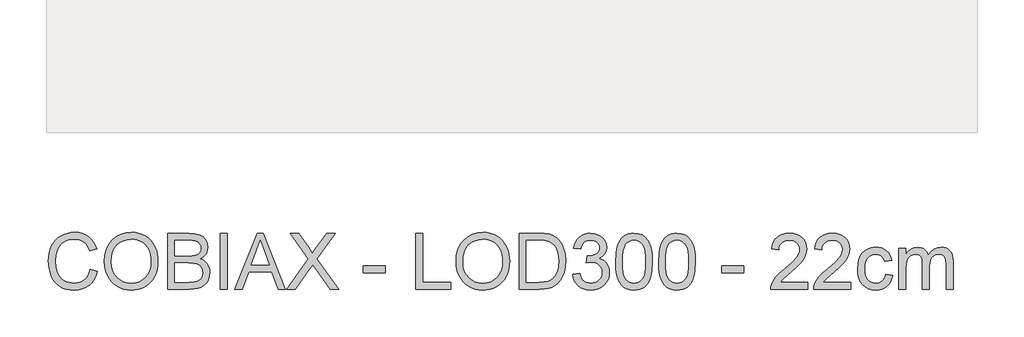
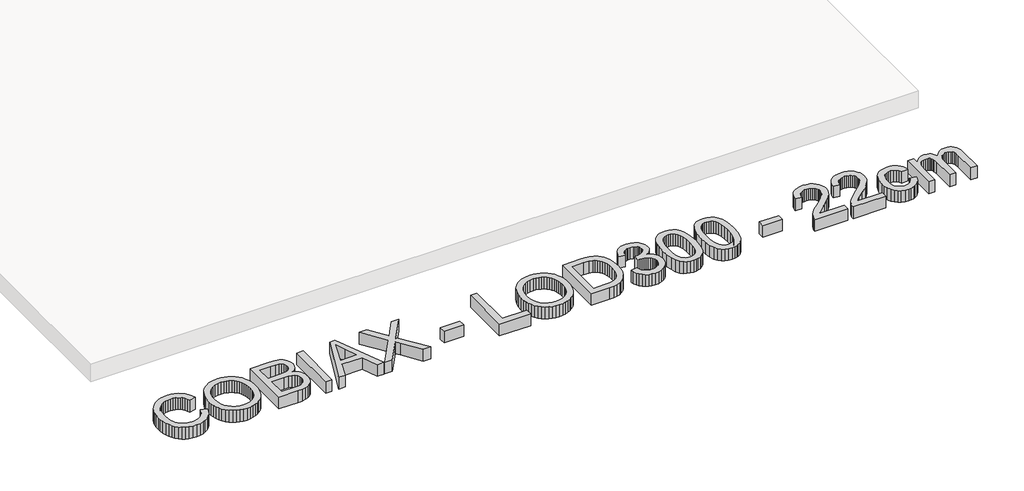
# One storey, part 6 of 18: 1 proxy.
"""IFC4 building model written with IfcOpenShell, lengths in millimetres."""

from ifc_helpers import new_model, si_unit, origin, origin_with_axes, place, context, project, spatial, polyline, outline, extrude, element, save

model = new_model("IFC4")

# Units and contexts
model_context = context("Model", 3, world=origin())
ifc_project = project(units=[si_unit("LENGTHUNIT", "METRE", prefix="MILLI")], contexts=[model_context])

# Site, building, storey
site = spatial("IfcSite", under=ifc_project)
building = spatial("IfcBuilding", under=site)
storey = spatial("IfcBuildingStorey", under=building, Name="COBIAX Slabs", Elevation=0.0)

# Proxy
placement = place(None, origin())
element("IfcBuildingElementProxy", 1, Name="600mm Arial", ObjectType="600mm Arial", at=placement, inside=storey, context=model_context, shape_type="SweptSolid", body=[
    extrude(outline(polyline([(-20201.7846047, -6620.9127725), (-20126.4423721, -6640.3369419), (-20141.35079, -6687.1913125), (-20161.2072206, -6728.13198), (-20186.0116642, -6763.1589445), (-20215.7641205, -6792.2722059), (-20249.7932051, -6815.1590645), (-20287.4275332, -6831.5068207), (-20328.6671048, -6841.3154744), (-20373.5119201, -6844.5850256), (-20419.4557827, -6842.1110192), (-20460.902288, -6834.6889999), (-20497.8514359, -6822.3189678), (-20530.3032264, -6805.0009229), (-20558.7037164, -6782.9923826), (-20583.4989629, -6756.5508642), (-20604.6889658, -6725.6763677), (-20622.2737252, -6690.3688932), (-20636.0830956, -6652.155151), (-20645.9469316, -6612.5618512), (-20651.8652332, -6571.588994), (-20653.8380004, -6529.2365793), (-20651.6077158, -6483.7939559), (-20644.916862, -6441.3495707), (-20633.765439, -6401.9034238), (-20618.1534469, -6365.4555151), (-20598.4303734, -6332.6082514), (-20574.9457065, -6303.9640396), (-20547.6994462, -6279.5228795), (-20516.6915926, -6259.2847713), (-20482.9752077, -6243.4152617), (-20447.6033539, -6232.0798977), (-20410.5760311, -6225.2786793), (-20371.8932393, -6223.0116065), (-20328.8004621, -6225.9454655), (-20289.2853373, -6234.7470422), (-20253.3478649, -6249.4163368), (-20220.9880449, -6269.9533491), (-20192.7393062, -6295.8154534), (-20169.1350776, -6326.4600236), (-20150.1753593, -6361.8870597), (-20135.8601512, -6402.0965618), (-20211.2023838, -6420.0492032), (-20223.0665781, -6390.420907), (-20237.3220054, -6365.1060272), (-20253.9686657, -6344.1045638), (-20273.006559, -6327.4165168), (-20294.5460498, -6314.7015953), (-20318.6975028, -6305.6195086), (-20345.4609179, -6300.1702565), (-20374.8362952, -6298.3538392), (-20408.6354535, -6300.3679931), (-20439.5467382, -6306.4104549), (-20467.5701492, -6316.4812245), (-20492.7056865, -6330.5803019), (-20514.6360519, -6348.0730908), (-20533.0439473, -6368.3249946), (-20547.9293725, -6391.3360134), (-20559.2923276, -6417.1061472), (-20573.6949077, -6472.2516583), (-20578.4957678, -6529.0894265), (-20572.8119909, -6598.6927), (-20565.7072699, -6629.9626696), (-20555.7606605, -6658.8781944), (-20542.8112142, -6684.8644589), (-20526.6979829, -6707.3466473), (-20507.4209663, -6726.3247597), (-20484.9801646, -6741.7987961), (-20460.4654281, -6753.8055448), (-20434.9666074, -6762.3817938), (-20408.4837022, -6767.5275432), (-20381.0167128, -6769.242793), (-20348.2614196, -6766.9067423), (-20318.1272857, -6759.8985903), (-20290.614311, -6748.218337), (-20265.7224955, -6731.8659823), (-20244.0404504, -6710.9151027), (-20226.1567869, -6685.4392745), (-20212.071505, -6655.4384978), (-20201.7846047, -6620.9127725)])), origin_with_axes(), (0.0, 0.0, 1.0), 150.0),
    extrude(outline(polyline([(-20051.1001395, -6541.7445672), (-20046.0785503, -6471.0468447), (-20031.0137825, -6408.4609203), (-20005.9058364, -6353.9867939), (-19989.5856714, -6329.7916549), (-19970.7547117, -6307.6244654), (-19927.6665331, -6270.6063397), (-19878.7474247, -6244.1648213), (-19823.9973868, -6228.2999102), (-19763.4164193, -6223.0116065), (-19722.8666263, -6225.49481), (-19684.3585785, -6232.9444204), (-19647.8922757, -6245.3604378), (-19613.467718, -6262.742862), (-19582.0505956, -6284.5674614), (-19554.6065988, -6310.310004), (-19531.1357275, -6339.9704899), (-19511.6379818, -6373.548919), (-19496.3156967, -6410.2819362), (-19485.3712073, -6449.4061864), (-19478.8045137, -6490.9216695), (-19476.6156158, -6534.8283857), (-19478.9194768, -6579.3145159), (-19485.8310598, -6621.3910191), (-19497.3503648, -6661.0578953), (-19513.4773917, -6698.3151443), (-19533.8304631, -6732.178682), (-19558.0279014, -6761.6644239), (-19586.0697064, -6786.7723701), (-19617.9558784, -6807.5025205), (-19652.4310198, -6823.7261165), (-19688.2397335, -6835.3143993), (-19725.3820195, -6842.267369), (-19763.8578777, -6844.5850256), (-19805.1158434, -6842.0236472), (-19844.129729, -6834.339512), (-19880.8995344, -6821.5326201), (-19915.4252597, -6803.6029713), (-19946.8055939, -6781.2449431), (-19974.1392261, -6755.1529126), (-19997.4261564, -6725.3268798), (-20016.6663847, -6691.7668448), (-20031.7311524, -6655.8201753), (-20042.4917008, -6618.8342393), (-20048.9480298, -6580.8090365), (-20051.1001395, -6541.7445672)]), holes=[polyline([(-19975.7579069, -6542.4803312), (-19971.9917149, -6592.4295091), (-19960.6931392, -6636.7684865), (-19941.8621795, -6675.4972636), (-19915.4988361, -6708.6158402), (-19883.4517158, -6735.140132), (-19847.5694257, -6754.0860548), (-19807.8519657, -6765.4536084), (-19764.299336, -6769.242793), (-19720.0017453, -6765.4168202), (-19679.8152359, -6753.938902), (-19643.7398077, -6734.8090382), (-19611.7754608, -6708.027229), (-19585.6052554, -6674.2096766), (-19566.9122515, -6633.9725834), (-19555.6964492, -6587.3159493), (-19551.9578484, -6534.2397745), (-19553.5581351, -6499.7600345), (-19558.3589951, -6467.5427687), (-19566.3604285, -6437.5879773), (-19577.5624353, -6409.8956601), (-19591.8408552, -6384.8291007), (-19609.0715282, -6362.7515824), (-19629.2544541, -6343.6631054), (-19652.3896331, -6327.5636696), (-19677.7596952, -6314.7843688), (-19704.6472705, -6305.6562968), (-19733.0523591, -6300.1794536), (-19762.9749609, -6298.3538392), (-19805.0146759, -6301.8717107), (-19844.0193644, -6312.4253255), (-19879.9890265, -6330.0146834), (-19912.9236621, -6354.6397844), (-19940.4136442, -6387.4870481), (-19960.0493457, -6429.7428937), (-19971.8307666, -6481.4073214), (-19975.7579069, -6542.4803312)])]), origin_with_axes(), (0.0, 0.0, 1.0), 150.0),
    extrude(outline(polyline([(-19373.020046, -6835.1672465), (-19373.020046, -6232.4293856), (-19143.0202226, -6232.4293856), (-19079.7629135, -6236.8623637), (-19030.3747557, -6250.1612978), (-19010.2975958, -6260.2182718), (-18992.5196984, -6272.6572818), (-18977.0410634, -6287.4783277), (-18963.8616909, -6304.6814095), (-18945.8170791, -6342.3525258), (-18939.8022085, -6381.7894757), (-18944.8605859, -6418.0810345), (-18960.0357182, -6452.2020895), (-18985.43797, -6482.0557135), (-19021.1777058, -6505.5449788), (-18998.438, -6515.2386694), (-18978.4850002, -6527.8386278), (-18961.3187066, -6543.3448538), (-18946.9391192, -6561.7573477), (-18935.576164, -6582.5150893), (-18927.4597675, -6605.0570585), (-18922.5899296, -6629.3832555), (-18920.9666503, -6655.4936801), (-18925.3996283, -6697.524198), (-18938.6985625, -6736.5012954), (-18958.5457961, -6769.6474632), (-18982.6236727, -6794.1851923), (-19012.1094146, -6811.9538926), (-19048.1802442, -6824.7929743), (-19092.013384, -6832.5736785), (-19144.7860562, -6835.1672465), (-19373.020046, -6835.1672465)]), holes=[polyline([(-19297.6778134, -6477.2916416), (-19160.0899472, -6477.2916416), (-19111.9709822, -6475.6729608), (-19079.7445194, -6470.8169185), (-19051.6199409, -6459.6516999), (-19031.4048253, -6442.9314633), (-19019.2095371, -6420.9137259), (-19015.1444411, -6393.8560051), (-19018.9336256, -6367.5892307), (-19030.3011793, -6344.7069706), (-19048.7320672, -6326.8462997), (-19073.7112547, -6315.6442929), (-19112.0445586, -6309.7397869), (-19170.5377958, -6307.7716182), (-19297.6778134, -6307.7716182), (-19297.6778134, -6477.2916416)]), polyline([(-19297.6778134, -6759.8250139), (-19143.1673754, -6759.8250139), (-19087.2493121, -6756.8819579), (-19061.2952374, -6750.3520525), (-19039.9396875, -6740.474421), (-19022.5756574, -6726.3293582), (-19008.5961416, -6706.9971594), (-18999.3806976, -6683.3423471), (-18996.3088829, -6656.2294441), (-18999.9141265, -6624.7387453), (-19010.7298571, -6597.6626304), (-19029.6205976, -6576.4910216), (-19057.4508705, -6562.7138409), (-19096.8694263, -6555.1538659), (-19150.5250153, -6552.6338742), (-19297.6778134, -6552.6338742), (-19297.6778134, -6759.8250139)])]), origin_with_axes(), (0.0, 0.0, 1.0), 150.0),
    extrude(outline(polyline([(-18807.9533014, -6835.1672465), (-18807.9533014, -6232.4293856), (-18732.6110688, -6232.4293856), (-18732.6110688, -6835.1672465), (-18807.9533014, -6835.1672465)])), origin_with_axes(), (0.0, 0.0, 1.0), 150.0),
    extrude(outline(polyline([(-18652.1184882, -6835.1672465), (-18411.5236634, -6232.4293856), (-18347.3650434, -6232.4293856), (-18106.7702186, -6835.1672465), (-18186.3798823, -6835.1672465), (-18255.3945446, -6646.811665), (-18503.641315, -6646.811665), (-18572.5088245, -6835.1672465), (-18652.1184882, -6835.1672465)]), holes=[polyline([(-18475.9765889, -6571.4694324), (-18282.9121179, -6571.4694324), (-18337.2115004, -6423.2865647), (-18379.4443534, -6307.7716182), (-18416.9683169, -6410.3371185), (-18475.9765889, -6571.4694324)])]), origin_with_axes(), (0.0, 0.0, 1.0), 150.0),
    extrude(outline(polyline([(-18092.2020916, -6835.1672465), (-17859.8478234, -6506.7222012), (-18054.5309753, -6232.4293856), (-17964.1791572, -6232.4293856), (-17854.5503227, -6386.7926708), (-17828.3939128, -6425.8985269), (-17817.6149704, -6446.9781652), (-17774.3520477, -6385.7626012), (-17665.9004356, -6232.4293856), (-17574.2242424, -6232.4293856), (-17768.9073942, -6507.605118), (-17536.5531261, -6835.1672465), (-17626.9049441, -6835.1672465), (-17781.7096876, -6616.7924942), (-17813.9361504, -6571.4694324), (-17849.3999748, -6621.2070781), (-18000.5258984, -6835.1672465), (-18092.2020916, -6835.1672465)])), origin_with_axes(), (0.0, 0.0, 1.0), 150.0),
    extrude(outline(polyline([(-17272.8553119, -6656.2294441), (-17272.8553119, -6580.8872115), (-17037.410835, -6580.8872115), (-17037.410835, -6656.2294441), (-17272.8553119, -6656.2294441)])), origin_with_axes(), (0.0, 0.0, 1.0), 150.0),
    extrude(outline(polyline([(-16707.7885673, -6835.1672465), (-16707.7885673, -6232.4293856), (-16632.4463347, -6232.4293856), (-16632.4463347, -6759.8250139), (-16331.0774043, -6759.8250139), (-16331.0774043, -6835.1672465), (-16707.7885673, -6835.1672465)])), origin_with_axes(), (0.0, 0.0, 1.0), 150.0),
    extrude(outline(polyline([(-16274.5707298, -6541.7445672), (-16269.5491406, -6471.0468447), (-16254.4843729, -6408.4609203), (-16229.3764267, -6353.9867939), (-16213.0562617, -6329.7916549), (-16194.2253021, -6307.6244654), (-16151.1371234, -6270.6063397), (-16102.2180151, -6244.1648213), (-16047.4679771, -6228.2999102), (-15986.8870096, -6223.0116065), (-15946.3372167, -6225.49481), (-15907.8291688, -6232.9444204), (-15871.362866, -6245.3604378), (-15836.9383083, -6262.742862), (-15805.5211859, -6284.5674614), (-15778.0771891, -6310.310004), (-15754.6063178, -6339.9704899), (-15735.1085721, -6373.548919), (-15719.786287, -6410.2819362), (-15708.8417976, -6449.4061864), (-15702.275104, -6490.9216695), (-15700.0862061, -6534.8283857), (-15702.3900671, -6579.3145159), (-15709.3016501, -6621.3910191), (-15720.8209551, -6661.0578953), (-15736.947982, -6698.3151443), (-15757.3010534, -6732.178682), (-15781.4984917, -6761.6644239), (-15809.5402967, -6786.7723701), (-15841.4264687, -6807.5025205), (-15875.9016102, -6823.7261165), (-15911.7103239, -6835.3143993), (-15948.8526098, -6842.267369), (-15987.328468, -6844.5850256), (-16028.5864337, -6842.0236472), (-16067.6003193, -6834.339512), (-16104.3701247, -6821.5326201), (-16138.89585, -6803.6029713), (-16170.2761842, -6781.2449431), (-16197.6098164, -6755.1529126), (-16220.8967467, -6725.3268798), (-16240.1369751, -6691.7668448), (-16255.2017428, -6655.8201753), (-16265.9622911, -6618.8342393), (-16272.4186201, -6580.8090365), (-16274.5707298, -6541.7445672)]), holes=[polyline([(-16199.2284972, -6542.4803312), (-16195.4623053, -6592.4295091), (-16184.1637295, -6636.7684865), (-16165.3327699, -6675.4972636), (-16138.9694264, -6708.6158402), (-16106.9223061, -6735.140132), (-16071.040016, -6754.0860548), (-16031.3225561, -6765.4536084), (-15987.7699264, -6769.242793), (-15943.4723356, -6765.4168202), (-15903.2858262, -6753.938902), (-15867.210398, -6734.8090382), (-15835.2460512, -6708.027229), (-15809.0758457, -6674.2096766), (-15790.3828418, -6633.9725834), (-15779.1670395, -6587.3159493), (-15775.4284387, -6534.2397745), (-15777.0287254, -6499.7600345), (-15781.8295855, -6467.5427687), (-15789.8310189, -6437.5879773), (-15801.0330256, -6409.8956601), (-15815.3114455, -6384.8291007), (-15832.5421185, -6362.7515824), (-15852.7250445, -6343.6631054), (-15875.8602234, -6327.5636696), (-15901.2302855, -6314.7843688), (-15928.1178608, -6305.6562968), (-15956.5229494, -6300.1794536), (-15986.4455512, -6298.3538392), (-16028.4852662, -6301.8717107), (-16067.4899547, -6312.4253255), (-16103.4596168, -6330.0146834), (-16136.3942524, -6354.6397844), (-16163.8842345, -6387.4870481), (-16183.519936, -6429.7428937), (-16195.3013569, -6481.4073214), (-16199.2284972, -6542.4803312)])]), origin_with_axes(), (0.0, 0.0, 1.0), 150.0),
    extrude(outline(polyline([(-15596.4906363, -6835.1672465), (-15596.4906363, -6232.4293856), (-15388.5637326, -6232.4293856), (-15326.4284636, -6234.5998894), (-15280.9950372, -6241.1114007), (-15232.9496487, -6257.8500315), (-15192.4090528, -6284.2271705), (-15170.0694186, -6305.7850555), (-15150.7280227, -6330.1388435), (-15134.3848651, -6357.2885348), (-15121.0399457, -6387.2341292), (-15110.6748705, -6419.6997153), (-15103.2712454, -6454.4093815), (-15097.3483452, -6530.5609545), (-15101.358259, -6595.2530034), (-15113.3880002, -6652.1827421), (-15131.7085236, -6700.651195), (-15154.5907837, -6739.9593862), (-15180.9311345, -6770.9902325), (-15209.6259302, -6794.6266507), (-15242.5697628, -6812.1562277), (-15281.6572248, -6824.8665507), (-15326.9618925, -6832.5920726), (-15378.5573423, -6835.1672465), (-15596.4906363, -6835.1672465)]), holes=[polyline([(-15521.1484037, -6759.8250139), (-15387.8279686, -6759.8250139), (-15332.6824575, -6757.1026871), (-15290.8542747, -6748.9357069), (-15259.2899995, -6735.8023196), (-15234.9362114, -6718.1807721), (-15208.7614075, -6685.5680332), (-15189.0981148, -6643.3535742), (-15176.7924621, -6591.3534542), (-15172.6905778, -6529.3837321), (-15174.7001332, -6485.6425629), (-15180.7287994, -6447.2724708), (-15190.7765764, -6414.2734558), (-15204.8434642, -6386.645518), (-15221.7890286, -6363.7632579), (-15240.4728355, -6345.0012761), (-15260.8948847, -6330.3595727), (-15283.0551764, -6319.8381477), (-15326.3916754, -6310.7882506), (-15389.8881078, -6307.7716182), (-15521.1484037, -6307.7716182), (-15521.1484037, -6759.8250139)])]), origin_with_axes(), (0.0, 0.0, 1.0), 150.0),
    extrude(outline(polyline([(-15022.0061126, -6675.0650022), (-14946.66388, -6665.6472231), (-14929.7964905, -6712.9936359), (-14918.4243384, -6730.900292), (-14905.0932146, -6744.9625813), (-14889.4996165, -6755.5851739), (-14871.3400415, -6763.1727401), (-14850.6144896, -6767.7252798), (-14827.3229608, -6769.242793), (-14800.0261167, -6767.1550627), (-14775.6723287, -6760.8918717), (-14754.2615965, -6750.4532201), (-14735.7939204, -6735.8391078), (-14720.9222907, -6718.1439839), (-14710.2996981, -6698.4622971), (-14703.9261425, -6676.7940476), (-14701.801624, -6653.1392353), (-14703.9077484, -6630.6110616), (-14710.2261217, -6610.115436), (-14720.7567438, -6591.6523583), (-14735.4996148, -6575.2218287), (-14753.4890443, -6561.7343551), (-14773.7593423, -6552.1004453), (-14796.3105086, -6546.3200995), (-14821.1425433, -6544.3933175), (-14844.9445083, -6546.4534567), (-14873.9703978, -6552.6338742), (-14865.5826883, -6477.2916416), (-14853.5161588, -6478.1745584), (-14808.377038, -6472.7666931), (-14768.0203832, -6456.5430971), (-14751.4105111, -6444.2742325), (-14739.5463167, -6429.0991002), (-14732.4278001, -6411.0177002), (-14730.0549612, -6390.0300324), (-14731.7748096, -6372.9924975), (-14736.9343546, -6357.4908699), (-14745.5335962, -6343.5251496), (-14757.5725345, -6331.0953367), (-14772.3246025, -6320.8912099), (-14789.0632333, -6313.6025479), (-14828.5001832, -6307.7716182), (-14849.1567572, -6309.2431462), (-14868.0107094, -6313.6577302), (-14885.0620399, -6321.0153701), (-14900.3107486, -6331.3160659), (-14913.3797565, -6344.5598178), (-14923.8919845, -6360.7466255), (-14931.8474327, -6379.8764893), (-14937.2461009, -6401.949409), (-15012.5883335, -6392.5316299), (-15003.6579981, -6356.5619678), (-14990.4050492, -6324.878131), (-14972.8294869, -6297.4801194), (-14950.9313112, -6274.3679331), (-14925.4003007, -6256.0198186), (-14896.9262343, -6242.9140225), (-14865.5091119, -6235.0505448), (-14831.1489335, -6232.4293856), (-14783.7841266, -6237.5981277), (-14740.2820807, -6253.1043538), (-14703.6042458, -6277.5685064), (-14676.7120719, -6309.6110282), (-14660.2125645, -6346.5279864), (-14654.7127286, -6385.6154484), (-14659.936653, -6422.0357659), (-14675.608426, -6455.0715691), (-14701.5073184, -6483.2145417), (-14737.4126012, -6504.9563677), (-14712.304655, -6512.8106482), (-14690.2501294, -6524.012655), (-14671.2490243, -6538.5623879), (-14655.3013398, -6556.459847), (-14642.6829874, -6577.2635738), (-14633.6698785, -6600.53211), (-14628.2620132, -6626.2654556), (-14626.4593914, -6654.4636105), (-14630.064635, -6692.6865498), (-14640.8803656, -6727.8928567), (-14658.9065834, -6760.0825313), (-14684.1432883, -6789.2555735), (-14714.889026, -6813.4622088), (-14749.4423424, -6830.7526626), (-14787.8032374, -6841.1269348), (-14829.9717111, -6844.5850256), (-14868.0842858, -6841.6327726), (-14902.8123462, -6832.7760136), (-14934.1558922, -6818.0147485), (-14962.1149238, -6797.3489774), (-14985.5582039, -6771.9927109), (-15003.3544955, -6743.1599595), (-15015.5037984, -6710.8507233), (-15022.0061126, -6675.0650022)])), origin_with_axes(), (0.0, 0.0, 1.0), 150.0),
    extrude(outline(polyline([(-14560.5349379, -6538.6543584), (-14554.9983138, -6442.1773052), (-14548.0775338, -6401.2642288), (-14538.3884418, -6365.2347859), (-14525.9724244, -6333.7946709), (-14510.8708685, -6306.6495782), (-14493.0837741, -6283.7995077), (-14472.611141, -6265.2444596), (-14449.3839916, -6250.8878647), (-14423.3333478, -6240.6331541), (-14394.4592097, -6234.4803277), (-14362.7615773, -6232.4293856), (-14316.3348695, -6237.285428), (-14274.764204, -6251.853555), (-14239.9993555, -6275.5635496), (-14213.9900984, -6307.8451946), (-14194.3451999, -6348.4225787), (-14178.6734269, -6397.0197903), (-14168.4095192, -6458.731995), (-14164.9882167, -6538.6543584), (-14170.4696584, -6634.5795887), (-14177.3214605, -6675.3547093), (-14186.9139836, -6711.3381669), (-14199.2334319, -6742.7920775), (-14214.2660099, -6769.978557), (-14232.0117177, -6792.8976053), (-14252.4705551, -6811.5492224), (-14275.7252957, -6826.0023863), (-14301.858713, -6836.3260748), (-14330.8708068, -6842.5202879), (-14362.7615773, -6844.5850256), (-14404.2586663, -6840.9981761), (-14441.0468658, -6830.2376278), (-14473.1261758, -6812.3033805), (-14500.4965963, -6787.1954344), (-14526.7633707, -6741.8079932), (-14545.5253525, -6685.2553335), (-14556.7825415, -6617.5374552), (-14560.5349379, -6538.6543584)]), holes=[polyline([(-14485.1927053, -6538.5072056), (-14482.9854133, -6604.0039963), (-14476.3635374, -6657.0203904), (-14465.3270775, -6697.5563877), (-14449.8760337, -6725.6119884), (-14431.1876284, -6744.7004654), (-14410.4390838, -6758.3350918), (-14387.6304001, -6766.5158677), (-14362.7615773, -6769.242793), (-14337.8927544, -6766.5066706), (-14315.0840707, -6758.2983036), (-14294.3355262, -6744.6176919), (-14275.6471208, -6725.4648356), (-14260.196077, -6697.3632497), (-14249.1596172, -6656.8364494), (-14242.5377412, -6603.8844347), (-14240.3304493, -6538.5072056), (-14242.4641648, -6474.7440588), (-14248.8653116, -6422.6611653), (-14259.5338894, -6382.2585252), (-14274.4698984, -6353.5361384), (-14292.8456041, -6333.5141608), (-14313.8332719, -6319.2127483), (-14337.4329019, -6310.6319007), (-14363.6444941, -6307.7716182), (-14388.3845582, -6310.2916099), (-14410.8069658, -6317.8515849), (-14430.9117169, -6330.4515432), (-14448.6988113, -6348.0914849), (-14464.6648899, -6379.3614545), (-14476.0692318, -6421.5207311), (-14482.9118369, -6474.5693149), (-14485.1927053, -6538.5072056)])]), origin_with_axes(), (0.0, 0.0, 1.0), 150.0),
    extrude(outline(polyline([(-14099.0637631, -6538.6543584), (-14093.5271391, -6442.1773052), (-14086.6063591, -6401.2642288), (-14076.917267, -6365.2347859), (-14064.5012497, -6333.7946709), (-14049.3996938, -6306.6495782), (-14031.6125993, -6283.7995077), (-14011.1399663, -6265.2444596), (-13987.9128168, -6250.8878647), (-13961.862173, -6240.6331541), (-13932.9880349, -6234.4803277), (-13901.2904025, -6232.4293856), (-13854.8636947, -6237.285428), (-13813.2930293, -6251.853555), (-13778.5281807, -6275.5635496), (-13752.5189237, -6307.8451946), (-13732.8740251, -6348.4225787), (-13717.2022521, -6397.0197903), (-13706.9383445, -6458.731995), (-13703.5170419, -6538.6543584), (-13708.9984836, -6634.5795887), (-13715.8502858, -6675.3547093), (-13725.4428088, -6711.3381669), (-13737.7622571, -6742.7920775), (-13752.7948352, -6769.978557), (-13770.5405429, -6792.8976053), (-13790.9993804, -6811.5492224), (-13814.254121, -6826.0023863), (-13840.3875382, -6836.3260748), (-13869.3996321, -6842.5202879), (-13901.2904025, -6844.5850256), (-13942.7874916, -6840.9981761), (-13979.5756911, -6830.2376278), (-14011.6550011, -6812.3033805), (-14039.0254215, -6787.1954344), (-14065.292196, -6741.8079932), (-14084.0541777, -6685.2553335), (-14095.3113668, -6617.5374552), (-14099.0637631, -6538.6543584)]), holes=[polyline([(-14023.7215305, -6538.5072056), (-14021.5142385, -6604.0039963), (-14014.8923626, -6657.0203904), (-14003.8559028, -6697.5563877), (-13988.404859, -6725.6119884), (-13969.7164536, -6744.7004654), (-13948.9679091, -6758.3350918), (-13926.1592254, -6766.5158677), (-13901.2904025, -6769.242793), (-13876.4215796, -6766.5066706), (-13853.6128959, -6758.2983036), (-13832.8643514, -6744.6176919), (-13814.1759461, -6725.4648356), (-13798.7249023, -6697.3632497), (-13787.6884424, -6656.8364494), (-13781.0665665, -6603.8844347), (-13778.8592745, -6538.5072056), (-13780.9929901, -6474.7440588), (-13787.3941368, -6422.6611653), (-13798.0627147, -6382.2585252), (-13812.9987237, -6353.5361384), (-13831.3744293, -6333.5141608), (-13852.3620972, -6319.2127483), (-13875.9617271, -6310.6319007), (-13902.1733193, -6307.7716182), (-13926.9133835, -6310.2916099), (-13949.3357911, -6317.8515849), (-13969.4405421, -6330.4515432), (-13987.2276366, -6348.0914849), (-14003.1937152, -6379.3614545), (-14014.598057, -6421.5207311), (-14021.4406621, -6474.5693149), (-14023.7215305, -6538.5072056)])]), origin_with_axes(), (0.0, 0.0, 1.0), 150.0),
    extrude(outline(polyline([(-13420.9836696, -6656.2294441), (-13420.9836696, -6580.8872115), (-13185.5391927, -6580.8872115), (-13185.5391927, -6656.2294441), (-13420.9836696, -6656.2294441)])), origin_with_axes(), (0.0, 0.0, 1.0), 150.0),
    extrude(outline(polyline([(-12498.0413201, -6759.8250139), (-12498.0413201, -6835.1672465), (-12893.5880413, -6835.1672465), (-12891.9325723, -6808.6429547), (-12885.4946374, -6783.2223088), (-12866.9165967, -6742.6265306), (-12839.7301172, -6703.2447631), (-12800.4035319, -6662.0235855), (-12745.4051737, -6615.9095774), (-12664.1032527, -6543.6943417), (-12615.3221002, -6490.3882406), (-12601.094264, -6468.6096265), (-12590.9315239, -6447.125318), (-12584.8338798, -6425.9353151), (-12582.8013318, -6405.0396178), (-12584.7189167, -6385.3809236), (-12590.4716714, -6367.3133192), (-12600.0595959, -6350.8368043), (-12613.4826902, -6335.9513791), (-12629.9959933, -6323.6227337), (-12648.854544, -6314.8165584), (-12670.0583425, -6309.5328533), (-12693.6073887, -6307.7716182), (-12718.4164308, -6309.4914666), (-12740.6043136, -6314.6510115), (-12760.1710373, -6323.2502532), (-12777.1166017, -6335.2891915), (-12790.8248045, -6350.3631562), (-12800.6794434, -6368.0674772), (-12806.6805185, -6388.4021545), (-12808.8280296, -6411.3671881), (-12884.1702622, -6401.949409), (-12877.6909406, -6363.0550851), (-12865.9049212, -6329.0719858), (-12848.812204, -6300.0001111), (-12826.412789, -6275.8394611), (-12799.221711, -6256.8475531), (-12767.7540049, -6243.2819045), (-12732.0096705, -6235.1425153), (-12691.988708, -6232.4293856), (-12651.6090605, -6235.446018), (-12615.6715881, -6244.4959151), (-12584.1762908, -6259.5790769), (-12557.1231685, -6280.6955034), (-12535.3951382, -6306.2816962), (-12519.8751165, -6334.7741567), (-12510.5631035, -6366.172885), (-12507.4590992, -6400.477881), (-12510.8068253, -6436.5119224), (-12520.8500038, -6471.9205645), (-12538.6738865, -6507.9362118), (-12565.3637252, -6545.7912691), (-12607.909278, -6590.9855722), (-12673.3003026, -6649.018957), (-12759.9733007, -6721.49171), (-12793.965597, -6759.8250139), (-12498.0413201, -6759.8250139)])), origin_with_axes(), (0.0, 0.0, 1.0), 150.0),
    extrude(outline(polyline([(-12036.5701454, -6759.8250139), (-12036.5701454, -6835.1672465), (-12432.1168666, -6835.1672465), (-12430.4613976, -6808.6429547), (-12424.0234627, -6783.2223088), (-12405.4454219, -6742.6265306), (-12378.2589425, -6703.2447631), (-12338.9323572, -6662.0235855), (-12283.9339989, -6615.9095774), (-12202.632078, -6543.6943417), (-12153.8509254, -6490.3882406), (-12139.6230893, -6468.6096265), (-12129.4603491, -6447.125318), (-12123.3627051, -6425.9353151), (-12121.3301571, -6405.0396178), (-12123.247742, -6385.3809236), (-12129.0004967, -6367.3133192), (-12138.5884211, -6350.8368043), (-12152.0115154, -6335.9513791), (-12168.5248185, -6323.6227337), (-12187.3833693, -6314.8165584), (-12208.5871678, -6309.5328533), (-12232.136214, -6307.7716182), (-12256.945256, -6309.4914666), (-12279.1331389, -6314.6510115), (-12298.6998625, -6323.2502532), (-12315.6454269, -6335.2891915), (-12329.3536297, -6350.3631562), (-12339.2082687, -6368.0674772), (-12345.2093437, -6388.4021545), (-12347.3568549, -6411.3671881), (-12422.6990875, -6401.949409), (-12416.2197659, -6363.0550851), (-12404.4337464, -6329.0719858), (-12387.3410292, -6300.0001111), (-12364.9416143, -6275.8394611), (-12337.7505363, -6256.8475531), (-12306.2828301, -6243.2819045), (-12270.5384958, -6235.1425153), (-12230.5175332, -6232.4293856), (-12190.1378857, -6235.446018), (-12154.2004133, -6244.4959151), (-12122.705116, -6259.5790769), (-12095.6519938, -6280.6955034), (-12073.9239634, -6306.2816962), (-12058.4039418, -6334.7741567), (-12049.0919288, -6366.172885), (-12045.9879244, -6400.477881), (-12049.3356506, -6436.5119224), (-12059.3788291, -6471.9205645), (-12077.2027117, -6507.9362118), (-12103.8925505, -6545.7912691), (-12146.4381032, -6590.9855722), (-12211.8291279, -6649.018957), (-12298.5021259, -6721.49171), (-12332.4944223, -6759.8250139), (-12036.5701454, -6759.8250139)])), origin_with_axes(), (0.0, 0.0, 1.0), 150.0),
    extrude(outline(polyline([(-11659.8589823, -6675.0650022), (-11584.5167497, -6684.4827813), (-11592.7113211, -6720.0339776), (-11605.5228116, -6751.4924867), (-11622.9512211, -6778.8583086), (-11644.9965497, -6802.1314434), (-11670.7298953, -6820.7048856), (-11699.2223558, -6833.97163), (-11730.4739313, -6841.9316767), (-11764.4846217, -6844.5850256), (-11806.7404674, -6840.883213), (-11844.6277144, -6829.7777753), (-11878.1463627, -6811.2687124), (-11907.2964123, -6785.3560244), (-11930.8914437, -6752.5271548), (-11947.7450376, -6713.2695474), (-11957.857194, -6667.5832021), (-11961.2279127, -6615.468119), (-11955.4705595, -6548.4216254), (-11948.273868, -6518.2507033), (-11938.1984999, -6490.3146642), (-11925.1754772, -6465.1745284), (-11909.1358222, -6443.3913158), (-11890.0795349, -6424.9650263), (-11868.0066152, -6409.8956601), (-11843.914943, -6398.1786186), (-11818.8023983, -6389.8093032), (-11792.6689811, -6384.7877139), (-11765.5146913, -6383.1138508), (-11732.0880135, -6385.4131133), (-11701.8527121, -6392.3109007), (-11674.8087869, -6403.8072131), (-11650.956238, -6419.9020504), (-11630.6997357, -6440.2275306), (-11614.44395, -6464.4157718), (-11602.188881, -6492.4667739), (-11593.9345288, -6524.380537), (-11669.2767614, -6533.7983161), (-11682.9435775, -6500.9280598), (-11704.2255509, -6477.365218), (-11731.9454593, -6463.1833671), (-11764.9260801, -6458.4560835), (-11790.5260685, -6460.7829371), (-11813.6152622, -6467.7634979), (-11834.1936613, -6479.397766), (-11852.2612658, -6495.6857414), (-11866.9719471, -6517.004503), (-11877.4795765, -6543.7311299), (-11883.7841542, -6575.8656222), (-11885.8856801, -6613.4079798), (-11883.8301395, -6651.515956), (-11877.6635175, -6684.0229288), (-11867.3858143, -6710.9288982), (-11852.9970298, -6732.2338643), (-11835.2881102, -6748.4252706), (-11815.050002, -6759.9905608), (-11792.282705, -6766.9297349), (-11766.9862193, -6769.242793), (-11727.9723337, -6763.4670457), (-11711.1003457, -6756.2473615), (-11695.9849942, -6746.1398037), (-11683.0493436, -6733.0340076), (-11672.716458, -6716.8196087), (-11664.9863376, -6697.4966069), (-11659.8589823, -6675.0650022)])), origin_with_axes(), (0.0, 0.0, 1.0), 150.0),
    extrude(outline(polyline([(-11518.5922962, -6835.1672465), (-11518.5922962, -6392.5316299), (-11443.2500635, -6392.5316299), (-11443.2500635, -6465.372265), (-11420.5885326, -6431.9133975), (-11391.4522786, -6405.7018054), (-11356.8345829, -6388.7608395), (-11317.7287268, -6383.1138508), (-11275.8269675, -6388.8712041), (-11257.9938878, -6396.0678956), (-11242.2393414, -6406.1432637), (-11217.1497893, -6433.7895957), (-11200.7422523, -6470.6697657), (-11173.2798614, -6432.364053), (-11141.9547095, -6405.0028296), (-11106.7667967, -6388.5860955), (-11067.7161229, -6383.1138508), (-11037.5543978, -6385.3901207), (-11011.0806897, -6392.2189302), (-10988.2949986, -6403.6002795), (-10969.1973246, -6419.5341684), (-10954.1003672, -6440.204538), (-10943.3168262, -6465.7953293), (-10936.8467016, -6496.3065422), (-10934.6899934, -6531.7381769), (-10934.6899934, -6835.1672465), (-11010.032226, -6835.1672465), (-11010.032226, -6564.1117925), (-11011.7796655, -6526.5326467), (-11017.0219839, -6501.2039713), (-11026.8444332, -6483.8583352), (-11042.3322652, -6470.2283073), (-11062.2530752, -6461.3991394), (-11085.3744586, -6458.4560835), (-11106.7254099, -6460.3414787), (-11126.190966, -6465.9976644), (-11143.7711268, -6475.4246405), (-11159.4658925, -6488.6224071), (-11172.373952, -6505.9772402), (-11181.5939945, -6527.875416), (-11187.12602, -6554.3169344), (-11188.9700285, -6585.3017954), (-11188.9700285, -6835.1672465), (-11264.3122611, -6835.1672465), (-11264.3122611, -6555.724083), (-11268.6716627, -6513.1233479), (-11274.1209148, -6496.4031113), (-11281.7498677, -6482.7362951), (-11291.862024, -6472.1137025), (-11304.7608865, -6464.5261364), (-11320.446455, -6459.9735967), (-11338.9187297, -6458.4560835), (-11367.9446191, -6462.5027854), (-11394.6896402, -6474.6428912), (-11416.7625599, -6494.5820954), (-11431.7721453, -6522.0260922), (-11440.380584, -6560.1018787), (-11443.2500635, -6611.9364518), (-11443.2500635, -6835.1672465), (-11518.5922962, -6835.1672465)])), origin_with_axes(), (0.0, 0.0, 1.0), 150.0),
])

save(model, "model.ifc")
